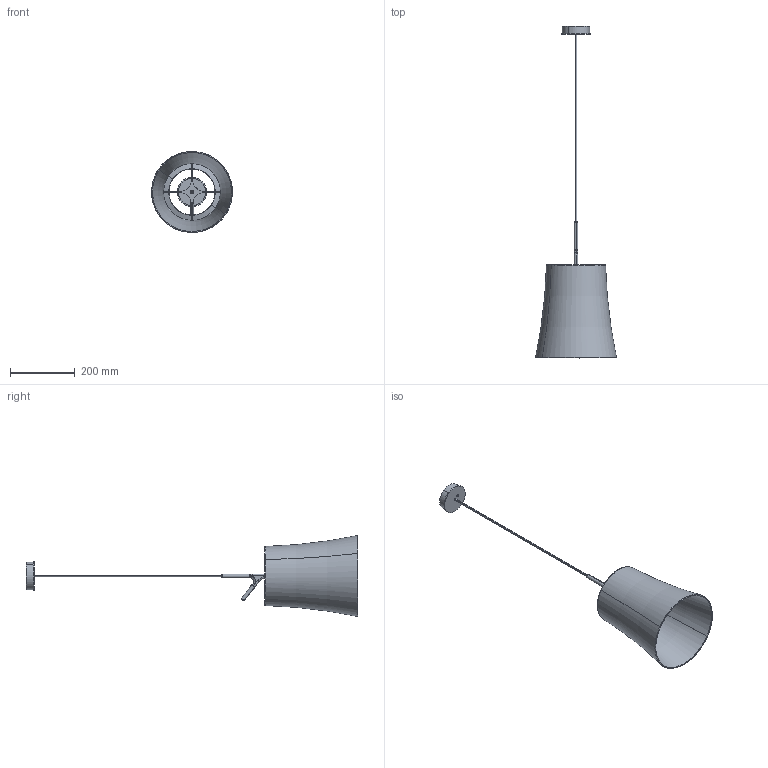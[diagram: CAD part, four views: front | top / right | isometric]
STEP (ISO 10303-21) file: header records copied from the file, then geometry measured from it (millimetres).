
FILE_DESCRIPTION (( 'STEP AP214' ), '1' );
FILE_NAME ('221_GRANDE_S_PL_3D.STEP', '2021-05-03T14:58:24', ( '' ), ( '' ), 'SwSTEP 2.0', 'SolidWorks 2021', '' );
FILE_SCHEMA (( 'AUTOMOTIVE_DESIGN' ));
Length unit declared in the file: millimetre
Products named in the file (1): 221_GRANDE_S_PL_3D
Bounding box: 249.6 x 1024.88 x 249.6 mm (x, y, z)
Volume: 760822 mm3; surface area: 443795.8 mm2
Topology: 6 solids, 6 shells, 147 faces, 363 edges, 230 vertices
Faces by surface type: cylinder 54, plane 47, cone 24, torus 18, bspline 4
Entity records: 8340 total; most frequent: CARTESIAN_POINT 3132, DIRECTION 756, ORIENTED_EDGE 722, EDGE_CURVE 361, AXIS2_PLACEMENT_3D 302, VERTEX_POINT 230, EDGE_LOOP 161, CIRCLE 158
